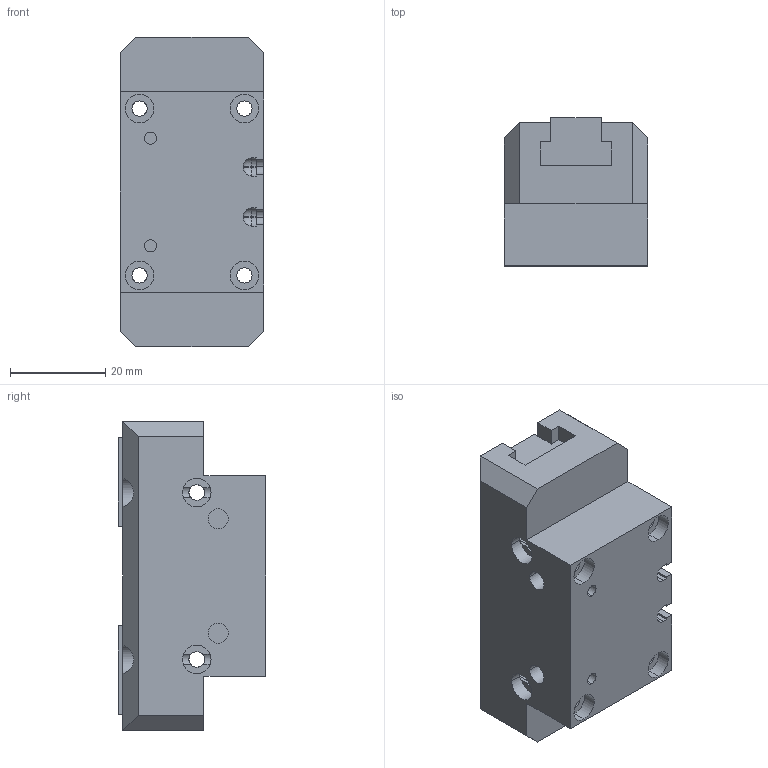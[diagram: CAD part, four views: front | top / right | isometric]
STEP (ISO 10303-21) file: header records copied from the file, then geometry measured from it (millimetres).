
FILE_DESCRIPTION (( 'STEP AP203' ), '1' );
FILE_NAME ('dh2204.STEP', '2011-08-03T08:22:02', ( 'Stefano' ), ( 'Gimatic' ), 'SwSTEP 2.0', 'SolidWorks 2010', '' );
FILE_SCHEMA (( 'CONFIG_CONTROL_DESIGN' ));
Length unit declared in the file: millimetre
Products named in the file (3): dh2204; dh22_corpo; dh22_griffa
Assembly tree (3 placements, depth 2):
  dh2204
    dh22_griffa  x2
    dh22_corpo
Bounding box: 30 x 31 x 65 mm (x, y, z)
Volume: 43374.7 mm3; surface area: 16474.8 mm2
Topology: 3 solids, 3 shells, 184 faces, 488 edges, 316 vertices
Faces by surface type: plane 94, cylinder 86, sphere 4
Entity records: 5783 total; most frequent: CARTESIAN_POINT 1352, DIRECTION 862, ORIENTED_EDGE 860, EDGE_CURVE 430, AXIS2_PLACEMENT_3D 310, VERTEX_POINT 280, VECTOR 242, LINE 242
